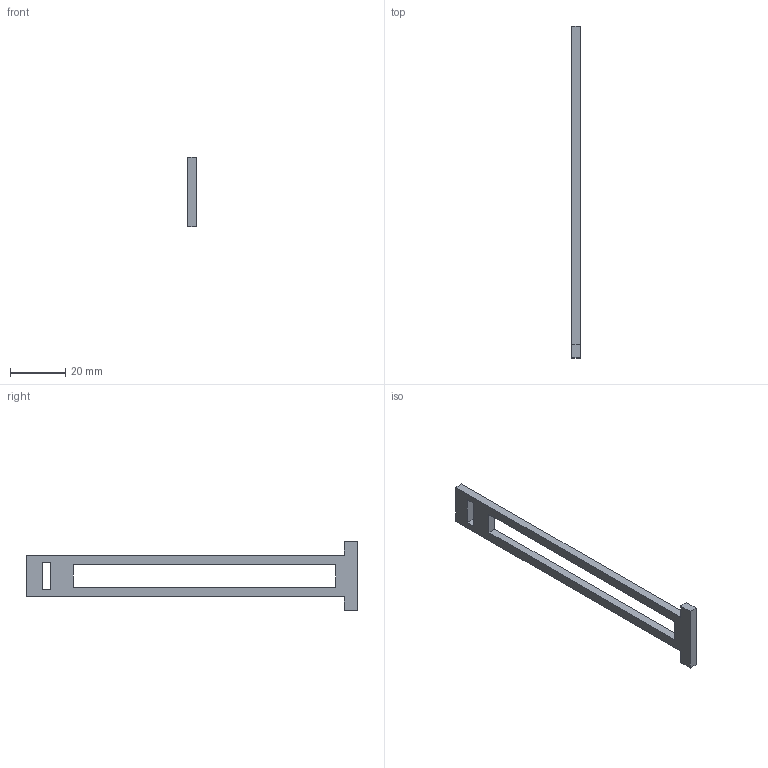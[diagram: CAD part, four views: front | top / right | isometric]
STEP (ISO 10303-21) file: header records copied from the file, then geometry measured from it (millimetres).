
FILE_DESCRIPTION(/* description */ (''),/* implementation_level */ '2;1');
FILE_NAME(/* name */ 'Lock Rear.step',/* time_stamp */ '2023-08-12T23:51:51+03:00',/* author */ (''),/* organization */ (''),/* preprocessor_version */ 'ST-DEVELOPER v20',/* originating_system */ 'Autodesk Translation Framework v12.9.0.99',/* authorisation */ '');
FILE_SCHEMA (('AUTOMOTIVE_DESIGN { 1 0 10303 214 3 1 1 }'));
Length unit declared in the file: millimetre
Products named in the file (1): lock rear
Bounding box: 3 x 120 x 25 mm (x, y, z)
Volume: 3180 mm3; surface area: 3686 mm2
Topology: 1 solids, 1 shells, 18 faces, 48 edges, 32 vertices
Faces by surface type: plane 18
Entity records: 593 total; most frequent: CARTESIAN_POINT 99, ORIENTED_EDGE 96, DIRECTION 86, LINE 48, VECTOR 48, EDGE_CURVE 48, VERTEX_POINT 32, EDGE_LOOP 22
